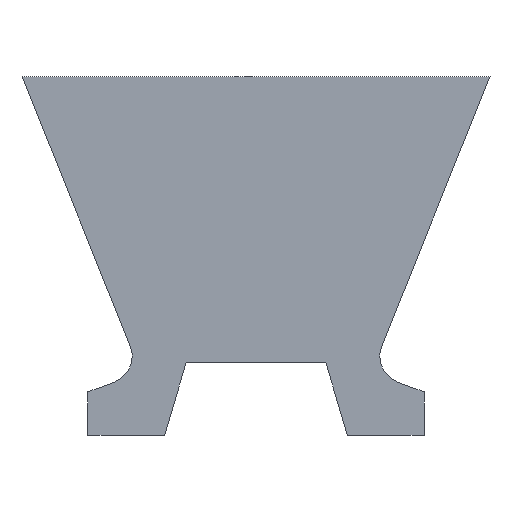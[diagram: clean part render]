
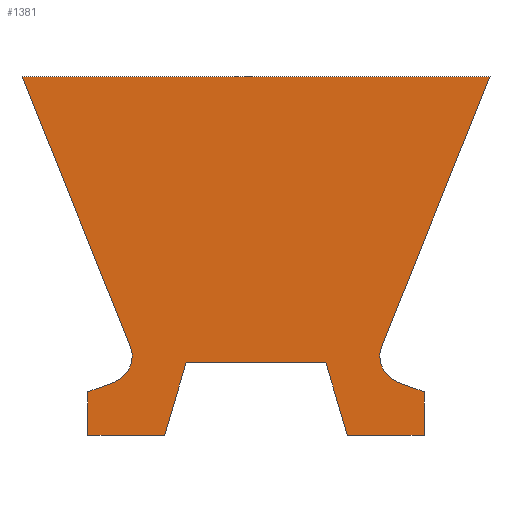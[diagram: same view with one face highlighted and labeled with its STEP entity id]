
A CAD part, front view. The second image highlights one B-rep face of the part: STEP entity #1381.
In plain terms, the highlighted planar face has unit normal (0, -1, 0).
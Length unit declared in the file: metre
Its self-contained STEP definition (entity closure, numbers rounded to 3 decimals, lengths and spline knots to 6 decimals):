
#196=CARTESIAN_POINT(' ',(-0.00515,-0.28,0.007423));
#197=VERTEX_POINT(' ',#196);
#211=CARTESIAN_POINT(' ',(0.00515,-0.28,0.007423));
#216=DIRECTION(' ',(-1.,0.,0.));
#221=VECTOR(' ',#216,1.);
#226=LINE('',#211,#221);
#231=CARTESIAN_POINT(' ',(0.00515,-0.28,0.007423));
#232=VERTEX_POINT(' ',#231);
#236=EDGE_CURVE(' ',#232,#197,#226,.T.);
#846=CARTESIAN_POINT(' ',(-0.002765,-0.28,0.001483));
#847=VERTEX_POINT(' ',#846);
#861=CARTESIAN_POINT(' ',(-0.00515,-0.28,0.007423));
#866=DIRECTION(' ',(0.373,0.,-0.928));
#871=VECTOR(' ',#866,1.);
#876=LINE('',#861,#871);
#881=EDGE_CURVE(' ',#197,#847,#876,.T.);
#911=DIRECTION(' ',(-0.,-1.,-0.));
#916=CARTESIAN_POINT(' ',(-0.00515,-0.28,-0.000477));
#921=DIRECTION(' ',(1.,0.,0.));
#926=AXIS2_PLACEMENT_3D(' ',#916,#911,#921);
#931=PLANE('',#926);
#936=ORIENTED_EDGE(' ',*,*,#236,.T.);
#941=ORIENTED_EDGE(' ',*,*,#881,.T.);
#946=CARTESIAN_POINT(' ',(-0.003322,-0.28,0.001259));
#951=DIRECTION(' ',(0.,1.,0.));
#956=DIRECTION(' ',(0.928,0.,0.373));
#961=AXIS2_PLACEMENT_3D(' ',#946,#951,#956);
#966=CIRCLE('',#961,0.0006);
#971=CARTESIAN_POINT(' ',(-0.003117,-0.28,0.000695));
#972=VERTEX_POINT(' ',#971);
#976=EDGE_CURVE(' ',#847,#972,#966,.T.);
#981=ORIENTED_EDGE(' ',*,*,#976,.T.);
#986=CARTESIAN_POINT(' ',(-0.003117,-0.28,0.000695));
#991=DIRECTION(' ',(-0.94,0.,-0.342));
#996=VECTOR(' ',#991,1.);
#1001=LINE('',#986,#996);
#1006=CARTESIAN_POINT(' ',(-0.0037,-0.28,0.000483));
#1007=VERTEX_POINT(' ',#1006);
#1011=EDGE_CURVE(' ',#972,#1007,#1001,.T.);
#1016=ORIENTED_EDGE(' ',*,*,#1011,.T.);
#1021=CARTESIAN_POINT(' ',(-0.0037,-0.28,0.000483));
#1026=DIRECTION(' ',(0.,0.,-1.));
#1031=VECTOR(' ',#1026,1.);
#1036=LINE('',#1021,#1031);
#1041=CARTESIAN_POINT(' ',(-0.0037,-0.28,-0.000477));
#1042=VERTEX_POINT(' ',#1041);
#1046=EDGE_CURVE(' ',#1007,#1042,#1036,.T.);
#1051=ORIENTED_EDGE(' ',*,*,#1046,.T.);
#1056=CARTESIAN_POINT(' ',(-0.0037,-0.28,-0.000477));
#1061=DIRECTION(' ',(1.,0.,0.));
#1066=VECTOR(' ',#1061,1.);
#1071=LINE('',#1056,#1066);
#1076=CARTESIAN_POINT(' ',(-0.002012,-0.28,-0.000477));
#1077=VERTEX_POINT(' ',#1076);
#1081=EDGE_CURVE(' ',#1042,#1077,#1071,.T.);
#1086=ORIENTED_EDGE(' ',*,*,#1081,.T.);
#1091=CARTESIAN_POINT(' ',(-0.002012,-0.28,-0.000477));
#1096=DIRECTION(' ',(0.285,0.,0.959));
#1101=VECTOR(' ',#1096,1.);
#1106=LINE('',#1091,#1101);
#1111=CARTESIAN_POINT(' ',(-0.001537,-0.28,0.001123));
#1112=VERTEX_POINT(' ',#1111);
#1116=EDGE_CURVE(' ',#1077,#1112,#1106,.T.);
#1121=ORIENTED_EDGE(' ',*,*,#1116,.T.);
#1126=CARTESIAN_POINT(' ',(-0.001537,-0.28,0.001123));
#1131=DIRECTION(' ',(1.,0.,0.));
#1136=VECTOR(' ',#1131,1.);
#1141=LINE('',#1126,#1136);
#1146=CARTESIAN_POINT(' ',(0.001537,-0.28,0.001123));
#1147=VERTEX_POINT(' ',#1146);
#1151=EDGE_CURVE(' ',#1112,#1147,#1141,.T.);
#1156=ORIENTED_EDGE(' ',*,*,#1151,.T.);
#1161=CARTESIAN_POINT(' ',(0.001537,-0.28,0.001123));
#1166=DIRECTION(' ',(0.285,0.,-0.959));
#1171=VECTOR(' ',#1166,1.);
#1176=LINE('',#1161,#1171);
#1181=CARTESIAN_POINT(' ',(0.002012,-0.28,-0.000477));
#1182=VERTEX_POINT(' ',#1181);
#1186=EDGE_CURVE(' ',#1147,#1182,#1176,.T.);
#1191=ORIENTED_EDGE(' ',*,*,#1186,.T.);
#1196=CARTESIAN_POINT(' ',(0.002012,-0.28,-0.000477));
#1201=DIRECTION(' ',(1.,0.,0.));
#1206=VECTOR(' ',#1201,1.);
#1211=LINE('',#1196,#1206);
#1216=CARTESIAN_POINT(' ',(0.0037,-0.28,-0.000477));
#1217=VERTEX_POINT(' ',#1216);
#1221=EDGE_CURVE(' ',#1182,#1217,#1211,.T.);
#1226=ORIENTED_EDGE(' ',*,*,#1221,.T.);
#1231=CARTESIAN_POINT(' ',(0.0037,-0.28,-0.000477));
#1236=DIRECTION(' ',(0.,0.,1.));
#1241=VECTOR(' ',#1236,1.);
#1246=LINE('',#1231,#1241);
#1251=CARTESIAN_POINT(' ',(0.0037,-0.28,0.000483));
#1252=VERTEX_POINT(' ',#1251);
#1256=EDGE_CURVE(' ',#1217,#1252,#1246,.T.);
#1261=ORIENTED_EDGE(' ',*,*,#1256,.T.);
#1266=CARTESIAN_POINT(' ',(0.0037,-0.28,0.000483));
#1271=DIRECTION(' ',(-0.94,0.,0.342));
#1276=VECTOR(' ',#1271,1.);
#1281=LINE('',#1266,#1276);
#1286=CARTESIAN_POINT(' ',(0.003117,-0.28,0.000695));
#1287=VERTEX_POINT(' ',#1286);
#1291=EDGE_CURVE(' ',#1252,#1287,#1281,.T.);
#1296=ORIENTED_EDGE(' ',*,*,#1291,.T.);
#1301=CARTESIAN_POINT(' ',(0.003322,-0.28,0.001259));
#1306=DIRECTION(' ',(-0.,1.,-0.));
#1311=DIRECTION(' ',(-0.342,0.,-0.94));
#1316=AXIS2_PLACEMENT_3D(' ',#1301,#1306,#1311);
#1321=CIRCLE('',#1316,0.0006);
#1326=CARTESIAN_POINT(' ',(0.002765,-0.28,0.001483));
#1327=VERTEX_POINT(' ',#1326);
#1331=EDGE_CURVE(' ',#1287,#1327,#1321,.T.);
#1336=ORIENTED_EDGE(' ',*,*,#1331,.T.);
#1341=CARTESIAN_POINT(' ',(0.002765,-0.28,0.001483));
#1346=DIRECTION(' ',(0.373,0.,0.928));
#1351=VECTOR(' ',#1346,1.);
#1356=LINE('',#1341,#1351);
#1361=EDGE_CURVE(' ',#1327,#232,#1356,.T.);
#1366=ORIENTED_EDGE(' ',*,*,#1361,.T.);
#1371=EDGE_LOOP(' ',(#936,#941,#981,#1016,#1051,#1086,#1121,#1156,#1191,#1226,#1261,#1296,#1336,#1366));
#1376=FACE_OUTER_BOUND(' ',#1371,.T.);
#1381=ADVANCED_FACE('',(#1376),#931,.T.);
